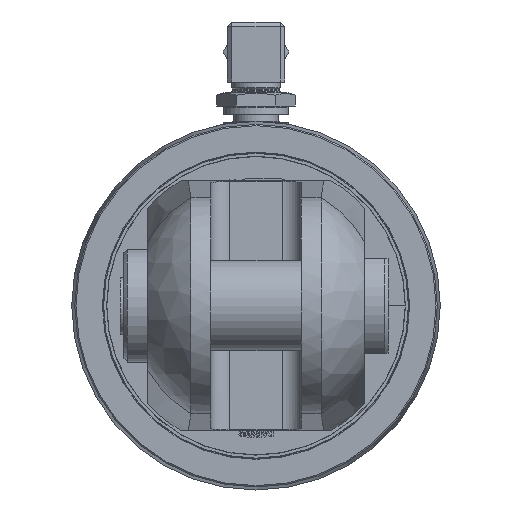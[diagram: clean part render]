
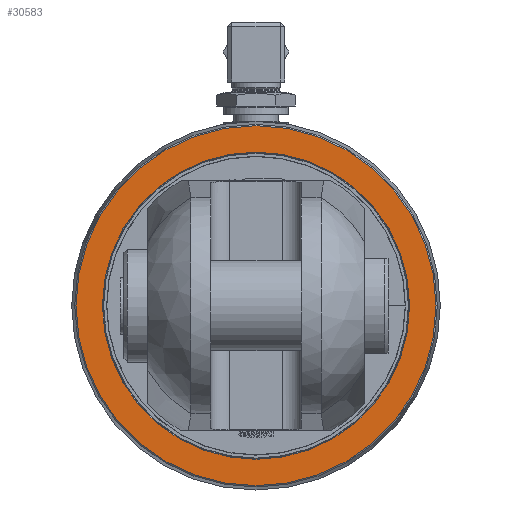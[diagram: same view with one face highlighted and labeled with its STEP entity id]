
A CAD part, left-side view. The second image highlights one B-rep face of the part: STEP entity #30583.
In plain terms, the highlighted planar face has unit normal (-1, 0, 0).
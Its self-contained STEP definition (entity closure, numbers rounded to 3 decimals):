
#2141=FACE_BOUND('',#5797,.T.);
#2408=CIRCLE('',#31859,75.888);
#2410=CIRCLE('',#31863,64.75);
#3970=FACE_OUTER_BOUND('',#5796,.T.);
#5796=EDGE_LOOP('',(#26166));
#5797=EDGE_LOOP('',(#26167));
#13964=VERTEX_POINT('',#55513);
#13966=VERTEX_POINT('',#55519);
#18058=EDGE_CURVE('',#13964,#13964,#2408,.T.);
#18060=EDGE_CURVE('',#13966,#13966,#2410,.T.);
#26166=ORIENTED_EDGE('',*,*,#18058,.F.);
#26167=ORIENTED_EDGE('',*,*,#18060,.F.);
#27399=PLANE('',#31862);
#30583=ADVANCED_FACE('',(#3970,#2141),#27399,.F.);
#31859=AXIS2_PLACEMENT_3D('',#55514,#36913,#36914);
#31862=AXIS2_PLACEMENT_3D('',#55518,#36919,#36920);
#31863=AXIS2_PLACEMENT_3D('',#55520,#36921,#36922);
#36913=DIRECTION('center_axis',(1.,0.,0.));
#36914=DIRECTION('ref_axis',(0.,-1.,0.));
#36919=DIRECTION('center_axis',(1.,0.,0.));
#36920=DIRECTION('ref_axis',(0.,0.,-1.));
#36921=DIRECTION('center_axis',(-1.,0.,0.));
#36922=DIRECTION('ref_axis',(0.,-1.,0.));
#55513=CARTESIAN_POINT('',(-665.5,75.888,0.));
#55514=CARTESIAN_POINT('Origin',(-665.5,0.,0.));
#55518=CARTESIAN_POINT('Origin',(-665.5,0.,0.));
#55519=CARTESIAN_POINT('',(-665.5,64.75,0.));
#55520=CARTESIAN_POINT('Origin',(-665.5,0.,0.));
